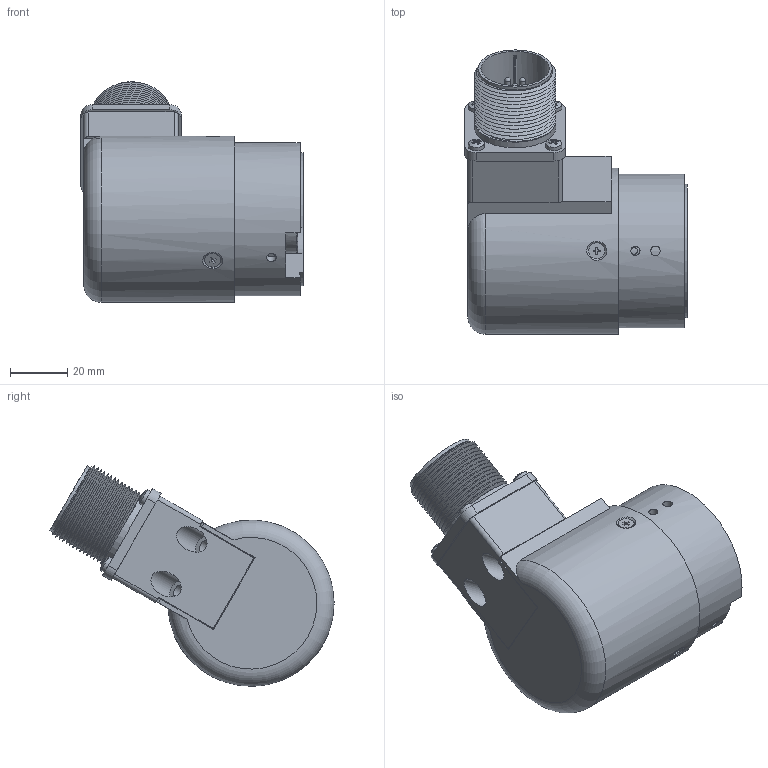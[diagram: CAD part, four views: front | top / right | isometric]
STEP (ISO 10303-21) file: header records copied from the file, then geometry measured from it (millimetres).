
FILE_DESCRIPTION( ( 'Unknown' ), '1' );
FILE_NAME( 'C:/Users/malfermoa/Desktop/step/EL_53A_albero 10 uscita MR.stp', 'Unknown', ( 'Unknown' ), ( 'Unknown' ), 'PSStep 15.0.49', 'Unknown', ' ' );
FILE_SCHEMA( ( 'AUTOMOTIVE_DESIGN { 1 0 10303 214 1 1 1 1 }' ) );
Length unit declared in the file: millimetre
Products named in the file (2): 94070093 - G23A6-10
Bounding box: 77.5 x 99.15 x 77 mm (x, y, z)
Volume: 128259.9 mm3; surface area: 68320.2 mm2
Topology: 2 solids, 10 shells, 595 faces, 1567 edges, 1024 vertices
Faces by surface type: plane 265, cylinder 226, bspline 49, cone 32, sphere 12, torus 11
Full cylindrical faces by diameter (mm): 2 x22, 2.05 x2, 2.2 x12, 2.459 x4, 2.5 x10, 2.6 x10, 3 x4, 3.2 x1, 3.3 x3, 3.5 x8, 4.5 x2, 5.6 x7, 6 x2, 7 x1, 8 x2, 9 x1, 10 x10, 10.5 x1, 11 x1, 12 x1, 13 x1, 13.8 x1, 19 x1, 22 x2, 23 x1, 23.5 x5, 23.9 x1, 25 x1, 25.2 x1, 26 x15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
Entity records: 33980 total; most frequent: CARTESIAN_POINT 17575, ORIENTED_EDGE 2310, DIRECTION 2271, EDGE_CURVE 1155, AXIS2_PLACEMENT_3D 871, VERTEX_POINT 849, EDGE_LOOP 831, FACE_OUTER_BOUND 687
